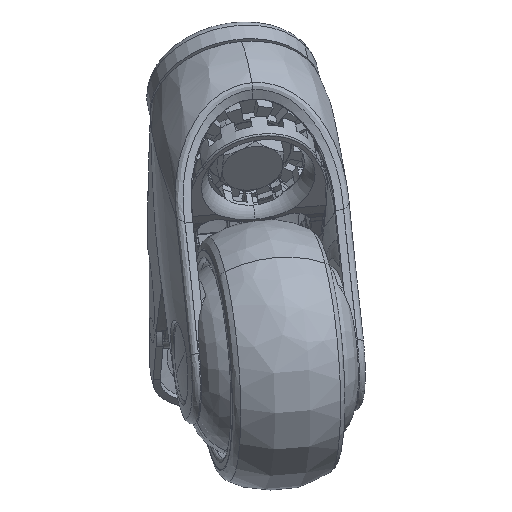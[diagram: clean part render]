
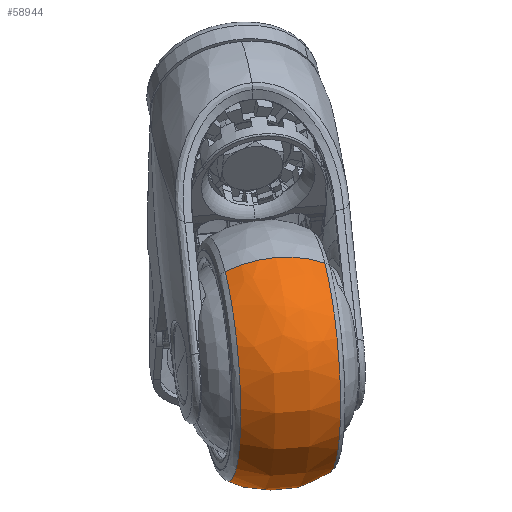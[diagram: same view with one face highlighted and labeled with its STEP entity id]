
A CAD part, left-side view. The second image highlights one B-rep face of the part: STEP entity #58944.
In plain terms, the highlighted free-form (B-spline) face has degree [3, 3] with [4, 4] control points.
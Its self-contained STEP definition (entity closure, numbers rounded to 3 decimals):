
#497 = VERTEX_POINT ( 'NONE', #114843 ) ;
#1051 = ORIENTED_EDGE ( 'NONE', *, *, #20787, .F. ) ;
#1513 = EDGE_CURVE ( 'NONE', #497, #39321, #42038, .T. ) ;
#1572 = CARTESIAN_POINT ( 'NONE',  ( -138.881, 77.075, -23.688 ) ) ;
#3020 = CARTESIAN_POINT ( 'NONE',  ( -32.503, 85.748, -21.336 ) ) ;
#3507 = CARTESIAN_POINT ( 'NONE',  ( -126.7, 70.401, -19.548 ) ) ;
#5867 = CARTESIAN_POINT ( 'NONE',  ( -32.503, 85.748, -21.336 ) ) ;
#7256 = DIRECTION ( 'NONE',  ( -0.694, -0.054, 0.718 ) ) ;
#12839 = CIRCLE ( 'NONE', #144580, 28. ) ;
#12915 = CARTESIAN_POINT ( 'NONE',  ( -86.572, 91.347, -80.341 ) ) ;
#13909 = CARTESIAN_POINT ( 'NONE',  ( -32.04, 104.83, -26.593 ) ) ;
#20209 = CARTESIAN_POINT ( 'NONE',  ( -83.885, 109.641, 24.803 ) ) ;
#20787 = EDGE_CURVE ( 'NONE', #110296, #34981, #12839, .T. ) ;
#24802 = CARTESIAN_POINT ( 'NONE',  ( -79.847, 74.042, -67.999 ) ) ;
#25669 = AXIS2_PLACEMENT_3D ( 'NONE', #120656, #131567, #7256 ) ;
#26275 = CARTESIAN_POINT ( 'NONE',  ( -84.914, 81.269, -79.495 ) ) ;
#29681 = ORIENTED_EDGE ( 'NONE', *, *, #86726, .T. ) ;
#32409 = AXIS2_PLACEMENT_3D ( 'NONE', #70112, #104796, #47824 ) ;
#34981 = VERTEX_POINT ( 'NONE', #73687 ) ;
#36721 = CARTESIAN_POINT ( 'NONE',  ( -51.6, 98.207, -5.086 ) ) ;
#39321 = VERTEX_POINT ( 'NONE', #20209 ) ;
#40796 = DIRECTION ( 'NONE',  ( -0.694, -0.054, 0.718 ) ) ;
#42038 = CIRCLE ( 'NONE', #32409, 28. ) ;
#47576 = CARTESIAN_POINT ( 'NONE',  ( -37.032, 113.282, -23.648 ) ) ;
#47824 = DIRECTION ( 'NONE',  ( -0.694, -0.054, 0.718 ) ) ;
#58944 = ADVANCED_FACE ( 'NONE', ( #127114 ), #75279, .T. ) ;
#61651 = DIRECTION ( 'NONE',  ( -0.162, 0.983, -0.083 ) ) ;
#68805 = CIRCLE ( 'NONE', #25669, 33.749 ) ;
#70112 = CARTESIAN_POINT ( 'NONE',  ( -64.788, 97.182, 8.553 ) ) ;
#70356 = CARTESIAN_POINT ( 'NONE',  ( -84.377, 101.576, -70.31 ) ) ;
#73687 = CARTESIAN_POINT ( 'NONE',  ( -37.032, 113.282, -23.648 ) ) ;
#75279 =( BOUNDED_SURFACE ( )  B_SPLINE_SURFACE ( 3, 3, ( 
 ( #81730, #3507, #24802, #3020 ),
 ( #138722, #1572, #26275, #138223 ),
 ( #82732, #80746, #12915, #13909 ),
 ( #103559, #116417, #70356, #47576 ) ),
 .UNSPECIFIED., .F., .F., .F. ) 
 B_SPLINE_SURFACE_WITH_KNOTS ( ( 4, 4 ),
 ( 4, 4 ),
 ( 0., 1. ),
 ( 0., 1. ),
 .UNSPECIFIED. ) 
 GEOMETRIC_REPRESENTATION_ITEM ( )  RATIONAL_B_SPLINE_SURFACE ( (
 ( 1., 0.333, 0.333, 1.),
 ( 0.911, 0.304, 0.304, 0.911),
 ( 0.911, 0.304, 0.304, 0.911),
 ( 1., 0.333, 0.333, 1.) ) ) 
 REPRESENTATION_ITEM ( '' )  SURFACE ( )  );
#76636 = AXIS2_PLACEMENT_3D ( 'NONE', #107236, #61651, #40796 ) ;
#80746 = CARTESIAN_POINT ( 'NONE',  ( -140.539, 87.153, -24.534 ) ) ;
#81730 = CARTESIAN_POINT ( 'NONE',  ( -79.356, 82.107, 27.114 ) ) ;
#82732 = CARTESIAN_POINT ( 'NONE',  ( -86.006, 100.637, 29.214 ) ) ;
#83269 = DIRECTION ( 'NONE',  ( 0.701, 0.173, 0.691 ) ) ;
#86726 = EDGE_CURVE ( 'NONE', #110296, #497, #138283, .T. ) ;
#94192 = DIRECTION ( 'NONE',  ( 0.694, 0.054, -0.718 ) ) ;
#103559 = CARTESIAN_POINT ( 'NONE',  ( -83.885, 109.641, 24.803 ) ) ;
#104796 = DIRECTION ( 'NONE',  ( -0.701, -0.173, -0.691 ) ) ;
#107236 = CARTESIAN_POINT ( 'NONE',  ( -55.929, 83.927, 2.889 ) ) ;
#110296 = VERTEX_POINT ( 'NONE', #5867 ) ;
#114843 = CARTESIAN_POINT ( 'NONE',  ( -79.356, 82.107, 27.114 ) ) ;
#116417 = CARTESIAN_POINT ( 'NONE',  ( -131.23, 97.935, -21.86 ) ) ;
#119555 = EDGE_CURVE ( 'NONE', #39321, #34981, #68805, .T. ) ;
#120656 = CARTESIAN_POINT ( 'NONE',  ( -60.459, 111.462, 0.578 ) ) ;
#122618 = EDGE_LOOP ( 'NONE', ( #1051, #29681, #130025, #135589 ) ) ;
#127114 = FACE_OUTER_BOUND ( 'NONE', #122618, .T. ) ;
#130025 = ORIENTED_EDGE ( 'NONE', *, *, #1513, .T. ) ;
#131567 = DIRECTION ( 'NONE',  ( 0.162, -0.983, 0.083 ) ) ;
#135589 = ORIENTED_EDGE ( 'NONE', *, *, #119555, .T. ) ;
#138223 = CARTESIAN_POINT ( 'NONE',  ( -30.381, 94.752, -25.747 ) ) ;
#138283 = CIRCLE ( 'NONE', #76636, 33.749 ) ;
#138722 = CARTESIAN_POINT ( 'NONE',  ( -84.348, 90.559, 30.06 ) ) ;
#144580 = AXIS2_PLACEMENT_3D ( 'NONE', #36721, #83269, #94192 ) ;
